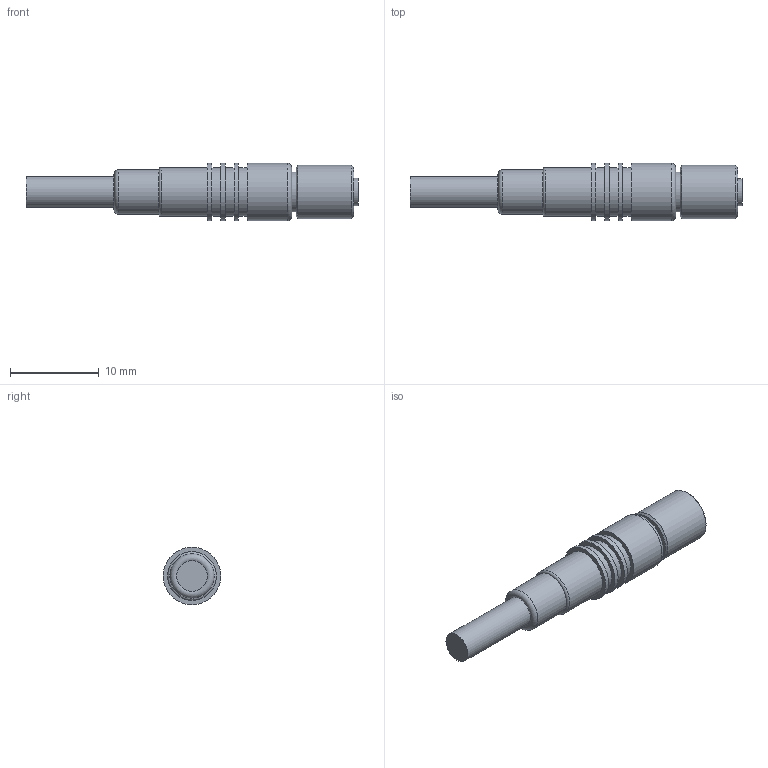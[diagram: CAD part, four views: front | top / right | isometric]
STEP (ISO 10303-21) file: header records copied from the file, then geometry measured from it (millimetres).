
FILE_DESCRIPTION( ( 'Unknown' ), '1' );
FILE_NAME( 'X:/SolidEdge/Models/Dokumentationen/_Standardteile/Kabeldosen/ES 05/Vereinfachte Modelle/Neutralformate/ESG 05.stp', 'Unknown', ( 'Unknown' ), ( 'Unknown' ), 'PSStep 14.0', 'Unknown', ' ' );
FILE_SCHEMA( ( 'AUTOMOTIVE_DESIGN { 1 0 10303 214 1 1 1 1 }' ) );
Length unit declared in the file: millimetre
Products named in the file (2): 79-3108-32-04
Bounding box: 37.5 x 6.5 x 6.5 mm (x, y, z)
Volume: 742.4 mm3; surface area: 955.5 mm2
Topology: 2 solids, 2 shells, 50 faces, 84 edges, 52 vertices
Faces by surface type: cylinder 20, plane 20, cone 7, torus 3
Full cylindrical faces by diameter (mm): 0.5 x4, 3.5 x1, 4.5 x1, 4.6 x1, 5 x2, 5.5 x4, 6 x1, 6.5 x4
Entity records: 1470 total; most frequent: DIRECTION 208, CARTESIAN_POINT 160, ORIENTED_EDGE 112, AXIS2_PLACEMENT_3D 100, EDGE_LOOP 94, FACE_OUTER_BOUND 71, EDGE_CURVE 56, VERTEX_POINT 52
